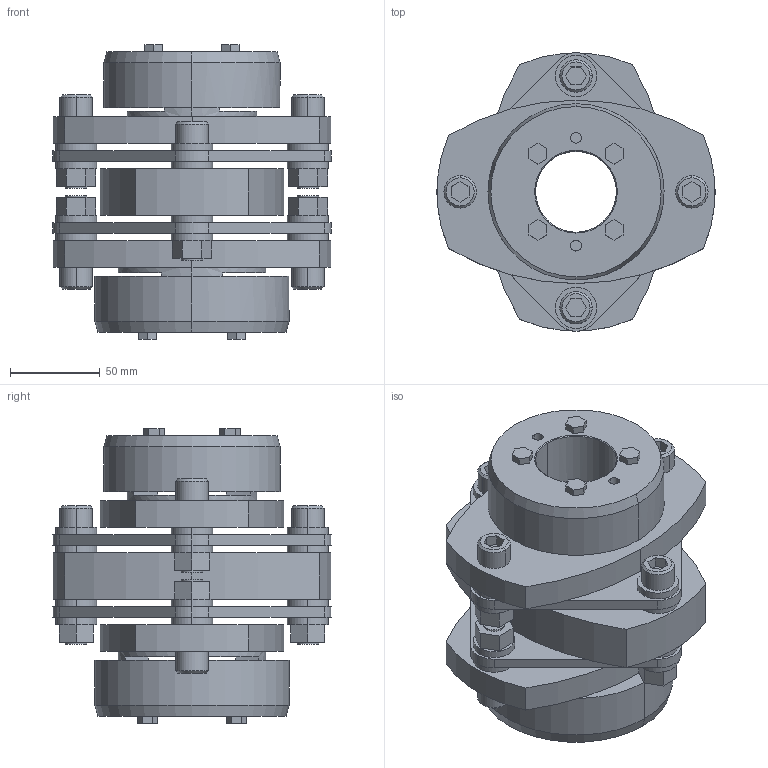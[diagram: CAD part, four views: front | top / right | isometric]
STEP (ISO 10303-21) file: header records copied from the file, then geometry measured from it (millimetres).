
FILE_DESCRIPTION((''),'2;1');
FILE_NAME('LCD-155T7-45×55.stp','2011-09-08T14:52:35',(''),(''),'AutoCAD STEP 2000i','AutoCAD 2000i',', , ');
FILE_SCHEMA(('CONFIG_CONTROL_DESIGN'));
Length unit declared in the file: millimetre
Products named in the file (7): LCD-155T7-45×55; 忣兜1; LC155T7-T055; LC155T7-T050; LC155T7-T045-1; LC155T7-T045; LCD155-ITA
Assembly tree (6 placements, depth 2):
  LCD-155T7-45×55
    忣兜1
    LC155T7-T055
    LC155T7-T050
    LC155T7-T045-1
    LC155T7-T045
    LCD155-ITA
Bounding box: 155 x 154.9 x 164 mm (x, y, z)
Volume: 1207152 mm3; surface area: 212339 mm2
Topology: 1 solids, 1 shells, 334 faces, 818 edges, 538 vertices
Faces by surface type: plane 190, cylinder 120, cone 24
Entity records: 10099 total; most frequent: DIRECTION 1782, CARTESIAN_POINT 1697, ORIENTED_EDGE 1636, EDGE_CURVE 818, AXIS2_PLACEMENT_3D 623, VERTEX_POINT 538, VECTOR 536, LINE 536
